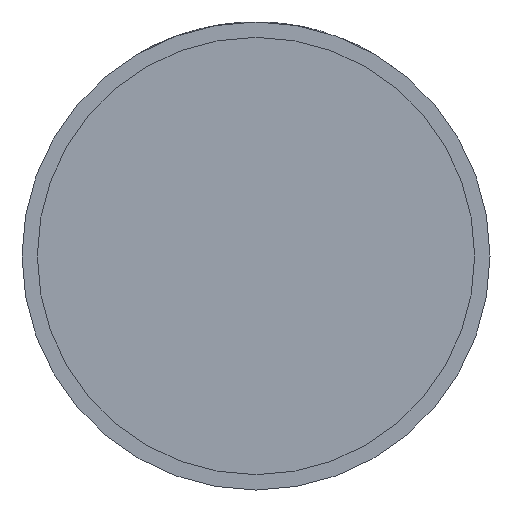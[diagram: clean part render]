
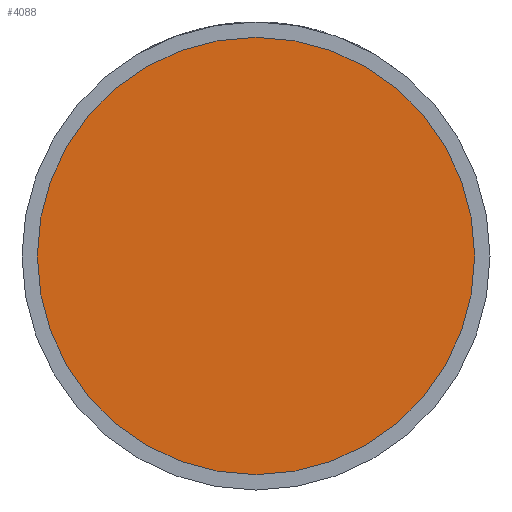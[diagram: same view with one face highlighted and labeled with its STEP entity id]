
A CAD part, front view. The second image highlights one B-rep face of the part: STEP entity #4088.
In plain terms, the highlighted planar face has unit normal (0, -1, 0).
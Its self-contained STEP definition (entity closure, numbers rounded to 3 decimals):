
#702 = CIRCLE ( 'NONE', #3189, 28.5 ) ;
#1187 = CARTESIAN_POINT ( 'NONE',  ( 28.5, -17.5, 0. ) ) ;
#1215 = DIRECTION ( 'NONE',  ( 0., -1., 0. ) ) ;
#1225 = CARTESIAN_POINT ( 'NONE',  ( -28.5, -17.5, 0. ) ) ;
#1405 = ORIENTED_EDGE ( 'NONE', *, *, #2288, .T. ) ;
#1540 = PLANE ( 'NONE',  #2101 ) ;
#1752 = CIRCLE ( 'NONE', #3609, 28.5 ) ;
#1831 = DIRECTION ( 'NONE',  ( 1., 0., 0. ) ) ;
#1960 = VERTEX_POINT ( 'NONE', #1225 ) ;
#2027 = DIRECTION ( 'NONE',  ( 1., 0., 0. ) ) ;
#2101 = AXIS2_PLACEMENT_3D ( 'NONE', #4176, #1215, #2535 ) ;
#2107 = CARTESIAN_POINT ( 'NONE',  ( 0., -17.5, 0. ) ) ;
#2288 = EDGE_CURVE ( 'NONE', #1960, #4199, #702, .T. ) ;
#2535 = DIRECTION ( 'NONE',  ( 1., 0., 0. ) ) ;
#2633 = EDGE_CURVE ( 'NONE', #4199, #1960, #1752, .T. ) ;
#3189 = AXIS2_PLACEMENT_3D ( 'NONE', #2107, #4092, #1831 ) ;
#3340 = DIRECTION ( 'NONE',  ( 0., -1., 0. ) ) ;
#3501 = EDGE_LOOP ( 'NONE', ( #4238, #1405 ) ) ;
#3504 = FACE_OUTER_BOUND ( 'NONE', #3501, .T. ) ;
#3609 = AXIS2_PLACEMENT_3D ( 'NONE', #4014, #3340, #2027 ) ;
#4014 = CARTESIAN_POINT ( 'NONE',  ( 0., -17.5, 0. ) ) ;
#4088 = ADVANCED_FACE ( 'NONE', ( #3504 ), #1540, .T. ) ;
#4092 = DIRECTION ( 'NONE',  ( 0., -1., 0. ) ) ;
#4176 = CARTESIAN_POINT ( 'NONE',  ( 28.5, -17.5, 0. ) ) ;
#4199 = VERTEX_POINT ( 'NONE', #1187 ) ;
#4238 = ORIENTED_EDGE ( 'NONE', *, *, #2633, .T. ) ;
